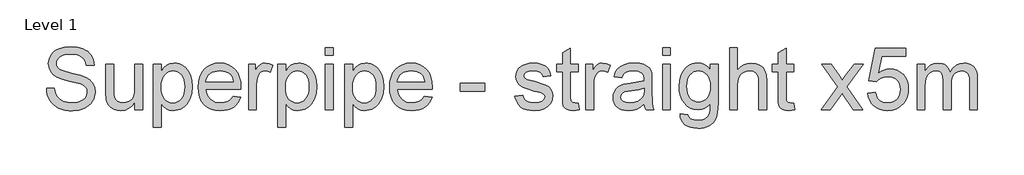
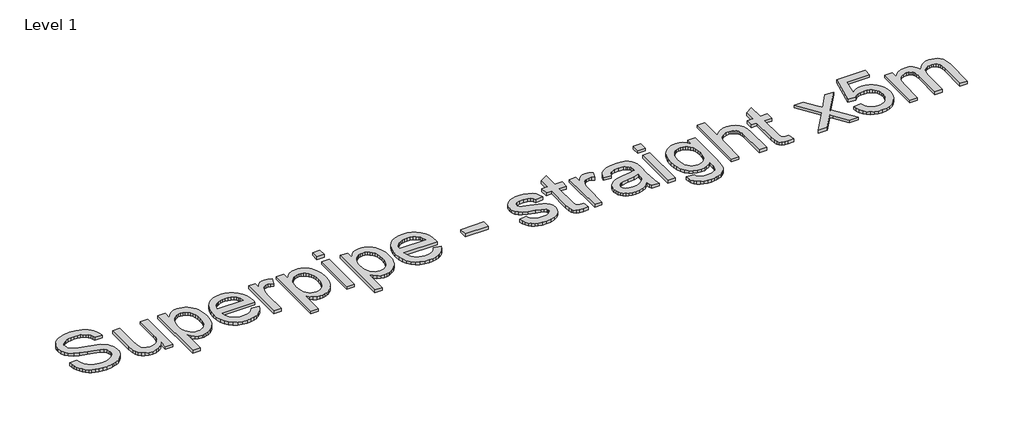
# One storey, part 8 of 58: 1 proxy.
"""IFC4 building model written with IfcOpenShell, lengths in millimetres."""

import ifcopenshell
import ifcopenshell.guid

model = None  # the IFC model being written
_history = None  # IfcOwnerHistory: only IFC2X3 demands one
_inside = {}  # id of a spatial element -> (the spatial element, [elements in it])
_under = {}  # id of a project, library or spatial element -> (it, [spatial elements below it])
_declared = {}  # id of a project -> (the project, [libraries it declares])
_typed = {}  # id of a type object -> (the type object, [elements of that type])
_made_of = {}  # id of a material, layer set ... -> (it, [elements and type objects made of it])


def new_model(schema):
    """Start an empty IFC model of exactly this schema.

    Asked for "IFC4X3", IfcOpenShell would pick the latest addendum, in which some entities
    have other attributes; the version numbers below select the first issue.
    IFC2X3 requires an IfcOwnerHistory on every rooted entity: one is made here for all.
    """
    global model, _history
    if schema == "IFC4X3":
        model = ifcopenshell.file(schema_version=(4, 3, 0, 0))
    else:
        model = ifcopenshell.file(schema=schema)
    _inside.clear()
    _under.clear()
    _declared.clear()
    _typed.clear()
    _made_of.clear()
    _history = None
    if model.schema == "IFC2X3":
        org = make("IfcOrganization", Name="unknown")
        user = make(
            "IfcPersonAndOrganization",
            ThePerson=make("IfcPerson", FamilyName="unknown"),
            TheOrganization=org,
        )
        app = make(
            "IfcApplication",
            ApplicationDeveloper=org,
            Version="unknown",
            ApplicationFullName="unknown",
            ApplicationIdentifier="unknown",
        )
        _history = make(
            "IfcOwnerHistory",
            OwningUser=user,
            OwningApplication=app,
            ChangeAction="ADDED",
            CreationDate=0,
        )
    return model


def make(cls, **values):
    """One entity of the class cls with the attributes given. An attribute that is None is left unset."""
    return model.create_entity(
        cls, **{name: value for name, value in values.items() if value is not None}
    )


def rooted(cls, **values):
    """An entity with a GlobalId (a new one), such as an element, a storey or a relation."""
    return make(cls, GlobalId=ifcopenshell.guid.new(), OwnerHistory=_history, **values)


def si_unit(unit_type, name, prefix=None):
    """IfcSIUnit, for example si_unit("LENGTHUNIT", "METRE", prefix="MILLI")."""
    return make("IfcSIUnit", UnitType=unit_type, Prefix=prefix, Name=name)


def assignment(units):
    """IfcUnitAssignment: the units of a project."""
    return None if units is None else make("IfcUnitAssignment", Units=units)


def point(xyz):
    """IfcCartesianPoint."""
    return None if xyz is None else make("IfcCartesianPoint", Coordinates=xyz)


def direction(xyz):
    """IfcDirection."""
    return None if xyz is None else make("IfcDirection", DirectionRatios=xyz)


def frame(location, z_axis=None, x_axis=None):
    """IfcAxis2Placement3D, a coordinate frame: its origin and axes. An axis left out is left unset."""
    return make(
        "IfcAxis2Placement3D",
        Location=point(location),
        Axis=direction(z_axis),
        RefDirection=direction(x_axis),
    )


def origin():
    """The frame at (0, 0, 0) with its axes left unset."""
    return frame((0.0, 0.0, 0.0))


def place(relative_to, where):
    """IfcLocalPlacement: puts the frame where relative to a parent placement (None: the world)."""
    return make(
        "IfcLocalPlacement", PlacementRelTo=relative_to, RelativePlacement=where
    )


def context(
    kind, dimensions, precision=None, world=None, true_north=None, identifier=None
):
    """IfcGeometricRepresentationContext, for example the 3D "Model" context."""
    return make(
        "IfcGeometricRepresentationContext",
        ContextIdentifier=identifier,
        ContextType=kind,
        CoordinateSpaceDimension=dimensions,
        Precision=precision,
        WorldCoordinateSystem=world,
        TrueNorth=true_north,
    )


def project(units=None, contexts=None):
    """IfcProject with its units and contexts."""
    return rooted(
        "IfcProject",
        Name="project",
        RepresentationContexts=contexts,
        UnitsInContext=assignment(units),
    )


def spatial(cls, under=None, at=None, **own):
    """A site, building, storey or space (cls), placed at a placement, below another one or the project."""
    s = rooted(cls, ObjectPlacement=at, **own)
    if under is not None:
        _under.setdefault(under.id(), (under, []))[1].append(s)
    return s


def polyline(points):
    """IfcPolyline through the points."""
    return make("IfcPolyline", Points=[point(p) for p in points])


def outline(outer, holes=None, kind="AREA"):
    """IfcArbitraryClosedProfileDef: a profile drawn as a closed curve; with holes, ...WithVoids."""
    if holes is None:
        return make("IfcArbitraryClosedProfileDef", ProfileType=kind, OuterCurve=outer)
    return make(
        "IfcArbitraryProfileDefWithVoids",
        ProfileType=kind,
        OuterCurve=outer,
        InnerCurves=holes,
    )


def extrude(swept, where, along, depth):
    """IfcExtrudedAreaSolid: the profile swept, set in the frame where, extruded along a direction by depth."""
    return make(
        "IfcExtrudedAreaSolid",
        SweptArea=swept,
        Position=where,
        ExtrudedDirection=direction(along),
        Depth=depth,
    )


def shape(context_of_items, identifier, shape_type, items):
    """IfcShapeRepresentation: the items that make up one representation, for example the "Body"."""
    return make(
        "IfcShapeRepresentation",
        ContextOfItems=context_of_items,
        RepresentationIdentifier=identifier,
        RepresentationType=shape_type,
        Items=items,
    )


def made_of(thing, what):
    """Note that an element or type object is made of a material, layer set ...; save() writes the relation."""
    if what is not None:
        _made_of.setdefault(what.id(), (what, []))[1].append(thing)
    return thing


def element(
    cls,
    number,
    at=None,
    inside=None,
    cuts=None,
    type_object=None,
    material=None,
    context=None,
    identifier="Body",
    shape_type=None,
    held_by="IfcProductDefinitionShape",
    body=None,
    shapes=None,
    **own,
):
    """One element of the class cls, such as IfcWall. Its Tag is "e" and its number.

    at: its placement. inside: the storey or other place that contains it. cuts: it is an
    opening in that element (IfcRelVoidsElement). A single representation is given by context,
    identifier, shape_type and body (its items); several are given by shapes. held_by: the class
    of the entity that holds the representations. save() writes the other relations.
    """
    e = rooted(cls, Tag="e%d" % number, ObjectPlacement=at, **own)
    if body is not None:
        shapes = [shape(context, identifier, shape_type, body)]
    if shapes is not None:
        e.Representation = make(held_by, Representations=shapes)
    if inside is not None:
        _inside.setdefault(inside.id(), (inside, []))[1].append(e)
    if cuts is not None:
        rooted(
            "IfcRelVoidsElement", RelatingBuildingElement=cuts, RelatedOpeningElement=e
        )
    if type_object is not None:
        _typed.setdefault(type_object.id(), (type_object, []))[1].append(e)
    return made_of(e, material)


def aggregate(whole, parts):
    """IfcRelAggregates: a whole, such as a stair, and the parts it consists of."""
    return rooted("IfcRelAggregates", RelatingObject=whole, RelatedObjects=parts)


def save(model, path):
    """Write the relations noted so far, then the file.

    IfcRelAggregates (storeys below a building ...), IfcRelContainedInSpatialStructure (elements
    in a storey), IfcRelDefinesByType, IfcRelAssociatesMaterial and IfcRelDeclares: one each for
    every whole, place, type object, material and project.
    """
    for whole, parts in _under.values():
        aggregate(whole, parts)
    for where, things in _inside.values():
        rooted(
            "IfcRelContainedInSpatialStructure",
            RelatedElements=things,
            RelatingStructure=where,
        )
    for kind, things in _typed.values():
        rooted("IfcRelDefinesByType", RelatedObjects=things, RelatingType=kind)
    for what, things in _made_of.values():
        rooted("IfcRelAssociatesMaterial", RelatedObjects=things, RelatingMaterial=what)
    for by, libraries in _declared.values():
        rooted("IfcRelDeclares", RelatingContext=by, RelatedDefinitions=libraries)
    model.write(path)


model = new_model("IFC4")

# Units and contexts
model_context = context("Model", 3, world=origin())
ifc_project = project(units=[si_unit("LENGTHUNIT", "METRE", prefix="MILLI")], contexts=[model_context])

# Site, building, storey
site = spatial("IfcSite", under=ifc_project)
building = spatial("IfcBuilding", under=site)
storey = spatial("IfcBuildingStorey", under=building, Name="Level 1", Elevation=27.3876384)

# Proxy
placement = place(None, origin())
element("IfcBuildingElementProxy", 1, Name="600mm Arial", ObjectType="600mm Arial", at=placement, inside=storey, context=model_context, shape_type="SweptSolid", body=[
    extrude(outline(polyline([(-18845.9522245, 3535.3323636), (-18770.6099919, 3535.3323636), (-18761.964765, 3493.5225748), (-18746.3297802, 3459.9165546), (-18721.939204, 3433.2451099), (-18687.0272026, 3412.239048), (-18644.3528912, 3398.6090201), (-18596.6753846, 3394.0656774), (-18554.700049, 3397.5053741), (-18517.9486376, 3407.824464), (-18488.1685901, 3424.1584246), (-18467.1073459, 3445.6427331), (-18454.580964, 3470.3092209), (-18450.4055033, 3496.1897193), (-18453.5325003, 3521.40803), (-18462.9134912, 3543.2050383), (-18481.9697785, 3561.8014731), (-18514.1226649, 3577.4180638), (-18623.8250759, 3606.1864358), (-18695.8379764, 3625.2243291), (-18741.9151963, 3643.3425174), (-18779.4207657, 3668.6895868), (-18806.0002399, 3699.4077334), (-18821.8375598, 3734.8347696), (-18827.1166664, 3774.3085076), (-18825.48419, 3796.7447108), (-18820.586761, 3818.435953), (-18812.4243792, 3839.3822341), (-18800.9970447, 3859.5835541), (-18786.4335162, 3878.2167772), (-18768.8625525, 3894.4587673), (-18748.2841533, 3908.3095244), (-18724.6983189, 3919.7690485), (-18671.6865234, 3935.16491), (-18613.0093452, 3940.2968639), (-18549.4393364, 3934.9257867), (-18493.8155788, 3918.8125553), (-18469.4801848, 3906.8104052), (-18448.124635, 3892.2882635), (-18429.7489293, 3875.2461301), (-18414.3530678, 3855.684005), (-18402.0566121, 3834.1721053), (-18392.9791239, 3811.2806481), (-18387.1206031, 3787.0096335), (-18384.4810498, 3761.3590614), (-18459.8232824, 3761.3590614), (-18464.8632657, 3785.4001498), (-18473.6556454, 3806.3142412), (-18486.2004215, 3824.1013357), (-18502.4975938, 3838.7614332), (-18522.8506652, 3850.2209573), (-18547.5631383, 3858.4063317), (-18576.6350129, 3863.3175564), (-18610.0662892, 3864.9546312), (-18644.5644233, 3863.3359505), (-18674.0409682, 3858.4799081), (-18698.4959238, 3850.3865042), (-18717.9292902, 3839.0557388), (-18732.7365405, 3825.4349079), (-18743.3131479, 3810.4713078), (-18749.6591123, 3794.1649383), (-18751.7744338, 3776.5157996), (-18750.2753146, 3761.3314703), (-18745.7779573, 3747.5634866), (-18738.2823616, 3735.2118486), (-18727.7885277, 3724.2765563), (-18711.2706261, 3713.9206781), (-18685.261369, 3703.4544354), (-18604.7687885, 3682.190856), (-18521.701034, 3661.9941345), (-18471.4483535, 3644.3725869), (-18428.4981305, 3617.0389547), (-18411.892857, 3600.9717086), (-18398.534142, 3583.3041757), (-18388.2656358, 3564.1283267), (-18380.9309885, 3543.5361321), (-18375.0632707, 3498.1027057), (-18376.7509294, 3474.5352653), (-18381.8139053, 3451.6576038), (-18390.2521986, 3429.4697209), (-18402.0658092, 3407.9716168), (-18417.0478034, 3387.9956245), (-18434.9912477, 3370.3740769), (-18455.8961421, 3355.1069741), (-18479.7624865, 3342.1943161), (-18505.8959038, 3331.9258099), (-18533.6020165, 3324.5911626), (-18593.7323286, 3318.7234448), (-18632.2725662, 3320.3053374), (-18667.547851, 3325.0510151), (-18699.5581831, 3332.960478), (-18728.3035625, 3344.0337261), (-18753.9587331, 3358.2891534), (-18776.6984389, 3375.7451541), (-18796.52268, 3396.4017281), (-18813.4314562, 3420.2588755), (-18827.052287, 3446.544044), (-18837.0126921, 3474.4846816), (-18843.3126712, 3504.0807881), (-18845.9522245, 3535.3323636)])), frame((0.0, 0.0, 27.3876384), z_axis=(0.0, 0.0, 1.0), x_axis=(1.0, 0.0, 0.0)), (0.0, 0.0, 1.0), 30.0),
    extrude(outline(polyline([(-17988.9343286, 3328.1412239), (-17988.9343286, 3404.2192205), (-18016.1943844, 3366.8148186), (-18047.9426006, 3340.0973887), (-18084.1789771, 3324.0669308), (-18124.903514, 3318.7234448), (-18161.599743, 3322.4758412), (-18195.7575863, 3333.7330302), (-18224.4155937, 3350.655602), (-18244.6123152, 3371.4041465), (-18258.2055549, 3396.6040632), (-18267.0531169, 3426.8807514), (-18271.4677009, 3496.9254833), (-18271.4677009, 3770.7768405), (-18196.1254683, 3770.7768405), (-18196.1254683, 3532.3893076), (-18194.9850341, 3484.711801), (-18191.5637315, 3455.575547), (-18180.582454, 3429.952566), (-18161.7652899, 3410.4732144), (-18136.3630381, 3398.1675617), (-18105.6264974, 3394.0656774), (-18073.1241232, 3398.2595322), (-18042.7186763, 3410.8410964), (-18017.6475183, 3430.6515418), (-18001.1480108, 3456.5320402), (-17991.9877491, 3491.9774704), (-17988.9343286, 3540.4827115), (-17988.9343286, 3770.7768405), (-17913.592096, 3770.7768405), (-17913.592096, 3328.1412239), (-17988.9343286, 3328.1412239)])), frame((0.0, 0.0, 27.3876384), z_axis=(0.0, 0.0, 1.0), x_axis=(1.0, 0.0, 0.0)), (0.0, 0.0, 1.0), 30.0),
    extrude(outline(polyline([(-17809.9965261, 3158.6212005), (-17809.9965261, 3770.7768405), (-17734.6542935, 3770.7768405), (-17734.6542935, 3696.9061358), (-17710.0797762, 3733.3448475), (-17682.562203, 3759.3724986), (-17650.482893, 3774.9890893), (-17612.2231655, 3780.1946196), (-17585.947194, 3778.3736037), (-17561.2715092, 3772.9105561), (-17538.196111, 3763.8054767), (-17516.7209996, 3751.0583655), (-17497.3152243, 3735.0003164), (-17480.4478348, 3715.9624232), (-17466.1188311, 3693.9446858), (-17454.3282132, 3668.9471042), (-17438.5460756, 3613.4337111), (-17433.2853631, 3552.8435465), (-17439.2266573, 3488.4090151), (-17446.6532751, 3458.7439307), (-17457.05054, 3430.7803005), (-17470.2758977, 3405.2492901), (-17486.186794, 3382.8820648), (-17504.7832288, 3363.6786246), (-17526.0652022, 3347.6389696), (-17548.9888491, 3334.9884275), (-17572.5103041, 3325.952326), (-17596.6295674, 3320.5306651), (-17621.346639, 3318.7234448), (-17655.9827288, 3323.561093), (-17686.9032105, 3338.0740378), (-17713.3723201, 3359.9814106), (-17734.6542935, 3387.0023431), (-17734.6542935, 3158.6212005), (-17809.9965261, 3158.6212005)]), holes=[polyline([(-17734.6542935, 3545.927365), (-17732.617147, 3509.6174121), (-17726.5057073, 3478.3842307), (-17716.3199746, 3452.2278209), (-17702.0599487, 3431.1481825), (-17684.8936551, 3414.9245865), (-17665.9891191, 3403.3363037), (-17645.3463407, 3396.383334), (-17622.9653198, 3394.0656774), (-17600.2624021, 3396.4661074), (-17579.2425446, 3403.6673975), (-17559.9057473, 3415.6695476), (-17542.25201, 3432.4725577), (-17527.5413288, 3454.3155512), (-17517.0336993, 3481.4376513), (-17510.7291216, 3513.838858), (-17508.6275957, 3551.5191714), (-17510.6785378, 3587.5164246), (-17516.8313642, 3618.6944237), (-17527.0860748, 3645.0531686), (-17541.4426696, 3666.5926594), (-17558.65035, 3683.3312902), (-17577.458317, 3695.2874551), (-17597.8665707, 3702.461154), (-17619.875111, 3704.8523869), (-17641.8146735, 3702.3094027), (-17662.457452, 3694.6804498), (-17681.8034464, 3681.9655283), (-17699.8526568, 3664.1646383), (-17715.0783728, 3641.5169029), (-17725.9538843, 3614.2614456), (-17732.4791912, 3582.3982663), (-17734.6542935, 3545.927365)])]), frame((0.0, 0.0, 27.3876384), z_axis=(0.0, 0.0, 1.0), x_axis=(1.0, 0.0, 0.0)), (0.0, 0.0, 1.0), 30.0),
    extrude(outline(polyline([(-17038.6215586, 3459.990131), (-16964.750854, 3450.5723519), (-16976.0770209, 3420.9854424), (-16991.3671164, 3394.911806), (-17010.6211403, 3372.3514427), (-17033.8390927, 3353.3043524), (-17060.7818503, 3338.1752053), (-17091.2102898, 3327.3686717), (-17125.1244113, 3320.8847515), (-17162.5242146, 3318.7234448), (-17209.2728191, 3322.4528485), (-17250.9262581, 3333.6410597), (-17287.4845313, 3352.2880783), (-17318.947639, 3378.3939044), (-17344.2487232, 3411.231971), (-17362.3209262, 3450.0757112), (-17373.164248, 3494.9251249), (-17376.7786886, 3545.7802122), (-17373.1274598, 3598.3597464), (-17362.1737734, 3644.7036807), (-17343.9176294, 3684.8120153), (-17318.3590278, 3718.68475), (-17286.9786936, 3745.5953179), (-17251.2573518, 3764.8171522), (-17211.1950026, 3776.3502527), (-17166.7916458, 3780.1946196), (-17123.8184302, 3776.3594498), (-17084.9562959, 3764.8539404), (-17050.205243, 3745.6780914), (-17019.5652713, 3718.8319028), (-16994.5538941, 3685.0327445), (-16976.6886247, 3644.9979863), (-16965.9694631, 3598.7276284), (-16962.3964092, 3546.2216706), (-16962.8378676, 3525.9145845), (-17301.436456, 3525.9145845), (-17297.0724558, 3495.8494284), (-17288.3950393, 3469.5182746), (-17275.4042063, 3446.9211231), (-17258.099957, 3428.0579738), (-17237.4387844, 3413.1863441), (-17214.3771818, 3402.5637515), (-17188.9151492, 3396.1901959), (-17161.0526866, 3394.0656774), (-17120.9535492, 3398.0020148), (-17087.181982, 3409.8110268), (-17059.7379852, 3430.2284775), (-17038.6215586, 3459.990131)]), holes=[polyline([(-17301.436456, 3601.2568171), (-17037.7386418, 3601.2568171), (-17047.9289731, 3641.061649), (-17056.6937617, 3656.7150279), (-17067.9049655, 3669.5357154), (-17088.4511749, 3684.9867592), (-17111.8300757, 3696.0232191), (-17138.0416678, 3702.645095), (-17167.0859514, 3704.8523869), (-17193.5780535, 3703.0911519), (-17217.8720608, 3697.8074467), (-17239.9679731, 3689.0012715), (-17259.8657905, 3676.6726261), (-17276.5630346, 3661.3917277), (-17289.0572269, 3643.7287934), (-17297.3483673, 3623.6838232), (-17301.436456, 3601.2568171)])]), frame((0.0, 0.0, 27.3876384), z_axis=(0.0, 0.0, 1.0), x_axis=(1.0, 0.0, 0.0)), (0.0, 0.0, 1.0), 30.0),
    extrude(outline(polyline([(-16887.0541766, 3328.1412239), (-16887.0541766, 3770.7768405), (-16821.1297231, 3770.7768405), (-16821.1297231, 3705.2938453), (-16796.775935, 3743.2592672), (-16774.3351333, 3765.6264925), (-16751.8207552, 3776.5525878), (-16727.2462379, 3780.1946196), (-16689.7222744, 3774.382084), (-16651.6096997, 3756.9444775), (-16676.7728282, 3689.4013431), (-16703.2603318, 3700.989626), (-16729.7478355, 3704.8523869), (-16752.2438195, 3701.1367788), (-16772.3485705, 3689.9899543), (-16788.5905606, 3672.2580422), (-16799.4982618, 3648.7871709), (-16808.6585235, 3606.7014706), (-16811.711944, 3560.7897976), (-16811.711944, 3328.1412239), (-16887.0541766, 3328.1412239)])), frame((0.0, 0.0, 27.3876384), z_axis=(0.0, 0.0, 1.0), x_axis=(1.0, 0.0, 0.0)), (0.0, 0.0, 1.0), 30.0),
    extrude(outline(polyline([(-16604.5208043, 3158.6212005), (-16604.5208043, 3770.7768405), (-16529.1785717, 3770.7768405), (-16529.1785717, 3696.9061358), (-16504.6040544, 3733.3448475), (-16477.0864812, 3759.3724986), (-16445.0071712, 3774.9890893), (-16406.7474437, 3780.1946196), (-16380.4714722, 3778.3736037), (-16355.7957874, 3772.9105561), (-16332.7203892, 3763.8054767), (-16311.2452778, 3751.0583655), (-16291.8395025, 3735.0003164), (-16274.972113, 3715.9624232), (-16260.6431093, 3693.9446858), (-16248.8524914, 3668.9471042), (-16233.0703538, 3613.4337111), (-16227.8096413, 3552.8435465), (-16233.7509355, 3488.4090151), (-16241.1775533, 3458.7439307), (-16251.5748182, 3430.7803005), (-16264.8001759, 3405.2492901), (-16280.7110722, 3382.8820648), (-16299.307507, 3363.6786246), (-16320.5894805, 3347.6389696), (-16343.5131273, 3334.9884275), (-16367.0345823, 3325.952326), (-16391.1538457, 3320.5306651), (-16415.8709172, 3318.7234448), (-16450.507007, 3323.561093), (-16481.4274887, 3338.0740378), (-16507.8965983, 3359.9814106), (-16529.1785717, 3387.0023431), (-16529.1785717, 3158.6212005), (-16604.5208043, 3158.6212005)]), holes=[polyline([(-16529.1785717, 3545.927365), (-16527.1414252, 3509.6174121), (-16521.0299855, 3478.3842307), (-16510.8442528, 3452.2278209), (-16496.5842269, 3431.1481825), (-16479.4179333, 3414.9245865), (-16460.5133973, 3403.3363037), (-16439.8706189, 3396.383334), (-16417.489598, 3394.0656774), (-16394.7866804, 3396.4661074), (-16373.7668229, 3403.6673975), (-16354.4300255, 3415.6695476), (-16336.7762882, 3432.4725577), (-16322.065607, 3454.3155512), (-16311.5579775, 3481.4376513), (-16305.2533998, 3513.838858), (-16303.1518739, 3551.5191714), (-16305.202816, 3587.5164246), (-16311.3556424, 3618.6944237), (-16321.610353, 3645.0531686), (-16335.9669478, 3666.5926594), (-16353.1746282, 3683.3312902), (-16371.9825952, 3695.2874551), (-16392.3908489, 3702.461154), (-16414.3993892, 3704.8523869), (-16436.3389517, 3702.3094027), (-16456.9817302, 3694.6804498), (-16476.3277246, 3681.9655283), (-16494.376935, 3664.1646383), (-16509.602651, 3641.5169029), (-16520.4781625, 3614.2614456), (-16527.0034694, 3582.3982663), (-16529.1785717, 3545.927365)])]), frame((0.0, 0.0, 27.3876384), z_axis=(0.0, 0.0, 1.0), x_axis=(1.0, 0.0, 0.0)), (0.0, 0.0, 1.0), 30.0),
    extrude(outline(polyline([(-16143.0496296, 3855.5368522), (-16143.0496296, 3930.8790848), (-16067.707397, 3930.8790848), (-16067.707397, 3855.5368522), (-16143.0496296, 3855.5368522)])), frame((0.0, 0.0, 27.3876384), z_axis=(0.0, 0.0, 1.0), x_axis=(1.0, 0.0, 0.0)), (0.0, 0.0, 1.0), 30.0),
    extrude(outline(polyline([(-16143.0496296, 3328.1412239), (-16143.0496296, 3770.7768405), (-16067.707397, 3770.7768405), (-16067.707397, 3328.1412239), (-16143.0496296, 3328.1412239)])), frame((0.0, 0.0, 27.3876384), z_axis=(0.0, 0.0, 1.0), x_axis=(1.0, 0.0, 0.0)), (0.0, 0.0, 1.0), 30.0),
    extrude(outline(polyline([(-15954.694048, 3158.6212005), (-15954.694048, 3770.7768405), (-15879.3518154, 3770.7768405), (-15879.3518154, 3696.9061358), (-15854.7772982, 3733.3448475), (-15827.2597249, 3759.3724986), (-15795.1804149, 3774.9890893), (-15756.9206874, 3780.1946196), (-15730.6447159, 3778.3736037), (-15705.9690311, 3772.9105561), (-15682.893633, 3763.8054767), (-15661.4185215, 3751.0583655), (-15642.0127462, 3735.0003164), (-15625.1453568, 3715.9624232), (-15610.8163531, 3693.9446858), (-15599.0257351, 3668.9471042), (-15583.2435975, 3613.4337111), (-15577.982885, 3552.8435465), (-15583.9241792, 3488.4090151), (-15591.350797, 3458.7439307), (-15601.7480619, 3430.7803005), (-15614.9734196, 3405.2492901), (-15630.8843159, 3382.8820648), (-15649.4807507, 3363.6786246), (-15670.7627242, 3347.6389696), (-15693.686371, 3334.9884275), (-15717.2078261, 3325.952326), (-15741.3270894, 3320.5306651), (-15766.0441609, 3318.7234448), (-15800.6802508, 3323.561093), (-15831.6007325, 3338.0740378), (-15858.069842, 3359.9814106), (-15879.3518154, 3387.0023431), (-15879.3518154, 3158.6212005), (-15954.694048, 3158.6212005)]), holes=[polyline([(-15879.3518154, 3545.927365), (-15877.3146689, 3509.6174121), (-15871.2032292, 3478.3842307), (-15861.0174965, 3452.2278209), (-15846.7574707, 3431.1481825), (-15829.5911771, 3414.9245865), (-15810.686641, 3403.3363037), (-15790.0438626, 3396.383334), (-15767.6628417, 3394.0656774), (-15744.9599241, 3396.4661074), (-15723.9400666, 3403.6673975), (-15704.6032692, 3415.6695476), (-15686.949532, 3432.4725577), (-15672.2388507, 3454.3155512), (-15661.7312212, 3481.4376513), (-15655.4266435, 3513.838858), (-15653.3251176, 3551.5191714), (-15655.3760597, 3587.5164246), (-15661.5288861, 3618.6944237), (-15671.7835967, 3645.0531686), (-15686.1401916, 3666.5926594), (-15703.3478719, 3683.3312902), (-15722.1558389, 3695.2874551), (-15742.5640926, 3702.461154), (-15764.5726329, 3704.8523869), (-15786.5121954, 3702.3094027), (-15807.1549739, 3694.6804498), (-15826.5009683, 3681.9655283), (-15844.5501787, 3664.1646383), (-15859.7758948, 3641.5169029), (-15870.6514063, 3614.2614456), (-15877.1767131, 3582.3982663), (-15879.3518154, 3545.927365)])]), frame((0.0, 0.0, 27.3876384), z_axis=(0.0, 0.0, 1.0), x_axis=(1.0, 0.0, 0.0)), (0.0, 0.0, 1.0), 30.0),
    extrude(outline(polyline([(-15183.3190806, 3459.990131), (-15109.4483759, 3450.5723519), (-15120.7745429, 3420.9854424), (-15136.0646383, 3394.911806), (-15155.3186622, 3372.3514427), (-15178.5366146, 3353.3043524), (-15205.4793722, 3338.1752053), (-15235.9078118, 3327.3686717), (-15269.8219332, 3320.8847515), (-15307.2217365, 3318.7234448), (-15353.9703411, 3322.4528485), (-15395.62378, 3333.6410597), (-15432.1820532, 3352.2880783), (-15463.6451609, 3378.3939044), (-15488.9462451, 3411.231971), (-15507.0184481, 3450.0757112), (-15517.8617699, 3494.9251249), (-15521.4762105, 3545.7802122), (-15517.8249817, 3598.3597464), (-15506.8712953, 3644.7036807), (-15488.6151513, 3684.8120153), (-15463.0565497, 3718.68475), (-15431.6762155, 3745.5953179), (-15395.9548738, 3764.8171522), (-15355.8925245, 3776.3502527), (-15311.4891677, 3780.1946196), (-15268.5159521, 3776.3594498), (-15229.6538179, 3764.8539404), (-15194.9027649, 3745.6780914), (-15164.2627932, 3718.8319028), (-15139.2514161, 3685.0327445), (-15121.3861467, 3644.9979863), (-15110.666985, 3598.7276284), (-15107.0939312, 3546.2216706), (-15107.5353896, 3525.9145845), (-15446.1339779, 3525.9145845), (-15441.7699777, 3495.8494284), (-15433.0925612, 3469.5182746), (-15420.1017282, 3446.9211231), (-15402.7974789, 3428.0579738), (-15382.1363063, 3413.1863441), (-15359.0747038, 3402.5637515), (-15333.6126712, 3396.1901959), (-15305.7502086, 3394.0656774), (-15265.6510711, 3398.0020148), (-15231.8795039, 3409.8110268), (-15204.4355071, 3430.2284775), (-15183.3190806, 3459.990131)]), holes=[polyline([(-15446.1339779, 3601.2568171), (-15182.4361638, 3601.2568171), (-15192.626495, 3641.061649), (-15201.3912836, 3656.7150279), (-15212.6024874, 3669.5357154), (-15233.1486968, 3684.9867592), (-15256.5275976, 3696.0232191), (-15282.7391898, 3702.645095), (-15311.7834733, 3704.8523869), (-15338.2755755, 3703.0911519), (-15362.5695827, 3697.8074467), (-15384.665495, 3689.0012715), (-15404.5633125, 3676.6726261), (-15421.2605565, 3661.3917277), (-15433.7547488, 3643.7287934), (-15442.0458892, 3623.6838232), (-15446.1339779, 3601.2568171)])]), frame((0.0, 0.0, 27.3876384), z_axis=(0.0, 0.0, 1.0), x_axis=(1.0, 0.0, 0.0)), (0.0, 0.0, 1.0), 30.0),
    extrude(outline(polyline([(-14833.9783379, 3507.0790263), (-14833.9783379, 3582.4212589), (-14598.533861, 3582.4212589), (-14598.533861, 3507.0790263), (-14833.9783379, 3507.0790263)])), frame((0.0, 0.0, 27.3876384), z_axis=(0.0, 0.0, 1.0), x_axis=(1.0, 0.0, 0.0)), (0.0, 0.0, 1.0), 30.0),
    extrude(outline(polyline([(-14306.5827097, 3459.990131), (-14231.240477, 3469.40791), (-14226.6879374, 3452.2278209), (-14219.3578886, 3437.1814473), (-14209.2503308, 3424.2687892), (-14196.3652639, 3413.4898468), (-14180.6658998, 3404.9917727), (-14162.1154502, 3398.9217198), (-14116.4612945, 3394.0656774), (-14071.3589619, 3398.5170496), (-14053.8293849, 3404.0812647), (-14039.647534, 3411.871166), (-14020.8855522, 3431.2217589), (-14016.1950568, 3442.0558837), (-14014.6315583, 3453.6625606), (-14016.2042538, 3463.8344978), (-14020.9223404, 3472.8660008), (-14039.7946868, 3487.5077042), (-14068.0112358, 3497.0726361), (-14117.3442113, 3508.9920127), (-14186.1013562, 3528.8760346), (-14230.7990186, 3545.8537886), (-14259.5122084, 3564.3766471), (-14280.3159352, 3588.8959821), (-14292.9526817, 3617.8482951), (-14297.1649306, 3649.6700877), (-14293.7804162, 3678.861524), (-14283.6268732, 3705.8088801), (-14267.6240064, 3729.4452983), (-14246.6915208, 3748.7039208), (-14225.887794, 3760.8256325), (-14198.7932851, 3770.9975697), (-14167.4681332, 3777.8953571), (-14133.9724775, 3780.1946196), (-14084.9338076, 3776.4974055), (-14042.2962843, 3765.4057633), (-14008.0096824, 3748.004945), (-13984.0237763, 3725.3802023), (-13968.1312741, 3695.8576722), (-13958.1248838, 3657.7634916), (-14033.4671164, 3648.3457125), (-14042.976866, 3672.0557071), (-14061.7940301, 3689.9163779), (-14090.1025496, 3701.1183847), (-14128.0863656, 3704.8523869), (-14171.3492882, 3701.2839316), (-14200.1912367, 3690.5785655), (-14216.4148326, 3675.1275217), (-14221.822698, 3657.3220332), (-14219.5786178, 3645.7337503), (-14212.8463773, 3635.3962663), (-14201.3316708, 3626.1624282), (-14184.7401929, 3618.7680001), (-14119.8458089, 3602.7283451), (-14009.2604812, 3567.2645207), (-13980.0506507, 3550.3051608), (-13957.9041546, 3527.0918069), (-13943.9430329, 3497.5508827), (-13939.2893257, 3461.6088117), (-13944.7523733, 3424.4527302), (-13961.1415162, 3389.5039407), (-13987.8313549, 3359.503164), (-14024.1964902, 3337.191121), (-14068.1216004, 3323.3403638), (-14117.4913641, 3318.7234448), (-14158.0411571, 3320.9491309), (-14193.4589961, 3327.6261891), (-14223.7448814, 3338.7546194), (-14248.8988128, 3354.3344219), (-14269.4450222, 3374.2920202), (-14285.9077415, 3398.5538378), (-14298.2869707, 3427.1198747), (-14306.5827097, 3459.990131)])), frame((0.0, 0.0, 27.3876384), z_axis=(0.0, 0.0, 1.0), x_axis=(1.0, 0.0, 0.0)), (0.0, 0.0, 1.0), 30.0),
    extrude(outline(polyline([(-13694.4270697, 3390.9754687), (-13685.0092906, 3325.9339319), (-13741.3688123, 3318.7234448), (-13777.5316124, 3321.8504418), (-13804.4973626, 3331.2314326), (-13823.55365, 3345.6891951), (-13835.9880614, 3364.0465066), (-13842.8306665, 3395.5739936), (-13845.1115349, 3449.5422823), (-13845.1115349, 3695.4346079), (-13901.6182094, 3695.4346079), (-13901.6182094, 3770.7768405), (-13845.1115349, 3770.7768405), (-13845.1115349, 3878.3455359), (-13769.7693023, 3922.6385281), (-13769.7693023, 3770.7768405), (-13694.4270697, 3770.7768405), (-13694.4270697, 3695.4346079), (-13769.7693023, 3695.4346079), (-13769.7693023, 3451.7495743), (-13765.7961767, 3412.9012356), (-13752.9203069, 3399.142449), (-13742.049394, 3395.3348703), (-13727.2421437, 3394.0656774), (-13694.4270697, 3390.9754687)])), frame((0.0, 0.0, 27.3876384), z_axis=(0.0, 0.0, 1.0), x_axis=(1.0, 0.0, 0.0)), (0.0, 0.0, 1.0), 30.0),
    extrude(outline(polyline([(-13619.0848371, 3328.1412239), (-13619.0848371, 3770.7768405), (-13553.1603835, 3770.7768405), (-13553.1603835, 3705.2938453), (-13528.8065955, 3743.2592672), (-13506.3657937, 3765.6264925), (-13483.8514156, 3776.5525878), (-13459.2768984, 3780.1946196), (-13421.7529349, 3774.382084), (-13383.6403602, 3756.9444775), (-13408.8034886, 3689.4013431), (-13435.2909923, 3700.989626), (-13461.7784959, 3704.8523869), (-13484.2744799, 3701.1367788), (-13504.379231, 3689.9899543), (-13520.6212211, 3672.2580422), (-13531.5289222, 3648.7871709), (-13540.6891839, 3606.7014706), (-13543.7426045, 3560.7897976), (-13543.7426045, 3328.1412239), (-13619.0848371, 3328.1412239)])), frame((0.0, 0.0, 27.3876384), z_axis=(0.0, 0.0, 1.0), x_axis=(1.0, 0.0, 0.0)), (0.0, 0.0, 1.0), 30.0),
    extrude(outline(polyline([(-13054.0180925, 3384.6478983), (-13090.0153457, 3353.7825989), (-13127.0794567, 3333.5858774), (-13166.0565541, 3322.439053), (-13207.7927665, 3318.7234448), (-13241.3390059, 3320.9583279), (-13270.7557699, 3327.6629773), (-13296.0430586, 3338.8373929), (-13317.2008718, 3354.4815747), (-13333.9073129, 3373.6022414), (-13345.8404852, 3395.2061116), (-13353.0003885, 3419.2931852), (-13355.3870229, 3445.8634623), (-13351.7817794, 3477.0966437), (-13340.9660487, 3505.4603456), (-13324.2826002, 3529.7405572), (-13303.0742032, 3548.7232682), (-13278.150198, 3563.070666), (-13250.3199251, 3573.4449383), (-13185.1312356, 3584.7757037), (-13108.0967458, 3596.6950804), (-13054.4595509, 3610.6745962), (-13054.0180925, 3627.4500152), (-13059.2052286, 3661.0744295), (-13065.6891488, 3673.5272351), (-13074.766637, 3683.0737728), (-13090.4568041, 3692.6019165), (-13109.5682737, 3699.4077334), (-13158.0551207, 3704.8523869), (-13202.9367241, 3701.2287493), (-13234.2802701, 3690.3578363), (-13255.654214, 3670.2530853), (-13270.6270112, 3638.9279334), (-13345.9692439, 3648.3457125), (-13332.8910389, 3689.5484959), (-13313.3748991, 3721.9221115), (-13285.5998084, 3746.6805698), (-13247.7447511, 3765.0378814), (-13201.446802, 3776.405435), (-13148.343036, 3780.1946196), (-13097.4097738, 3776.8468934), (-13057.0347248, 3766.8037149), (-13026.5924897, 3751.702159), (-13005.4576691, 3733.1793006), (-12991.4413651, 3710.2786464), (-12982.3546798, 3682.0437032), (-12978.6758599, 3616.1192497), (-12978.6758599, 3522.3829173), (-12974.8498871, 3391.4905035), (-12969.1845044, 3359.135282), (-12959.8403017, 3328.1412239), (-13035.1825343, 3328.1412239), (-13047.2490638, 3354.3344219), (-13054.0180925, 3384.6478983)]), holes=[polyline([(-13054.0180925, 3535.3323636), (-13104.638655, 3522.7875875), (-13175.5663037, 3512.2293743), (-13240.3871112, 3500.015692), (-13257.2545007, 3491.6647707), (-13269.7440944, 3480.1500643), (-13277.4696163, 3466.3544895), (-13280.0447903, 3451.1609631), (-13274.4345899, 3428.7569496), (-13257.6039886, 3410.399638), (-13229.9208685, 3398.1491676), (-13191.7531115, 3394.0656774), (-13151.286092, 3398.5722319), (-13115.5279621, 3412.0918952), (-13086.5388609, 3432.0127052), (-13066.3789275, 3455.7226998), (-13057.439395, 3480.1500643), (-13054.4595509, 3513.9952078), (-13054.0180925, 3535.3323636)])]), frame((0.0, 0.0, 27.3876384), z_axis=(0.0, 0.0, 1.0), x_axis=(1.0, 0.0, 0.0)), (0.0, 0.0, 1.0), 30.0),
    extrude(outline(polyline([(-12875.08029, 3328.1412239), (-12875.08029, 3770.7768405), (-12799.7380574, 3770.7768405), (-12799.7380574, 3328.1412239), (-12875.08029, 3328.1412239)])), frame((0.0, 0.0, 27.3876384), z_axis=(0.0, 0.0, 1.0), x_axis=(1.0, 0.0, 0.0)), (0.0, 0.0, 1.0), 30.0),
    extrude(outline(polyline([(-12875.08029, 3855.5368522), (-12875.08029, 3930.8790848), (-12799.7380574, 3930.8790848), (-12799.7380574, 3855.5368522), (-12875.08029, 3855.5368522)])), frame((0.0, 0.0, 27.3876384), z_axis=(0.0, 0.0, 1.0), x_axis=(1.0, 0.0, 0.0)), (0.0, 0.0, 1.0), 30.0),
    extrude(outline(polyline([(-12705.5602666, 3290.4701076), (-12630.218034, 3281.0523285), (-12621.9039009, 3257.5078808), (-12605.7906696, 3241.321073), (-12574.1160298, 3228.7395088), (-12532.6557289, 3224.545654), (-12488.4363131, 3229.2913318), (-12470.5756422, 3235.223429), (-12455.5476627, 3243.528365), (-12432.738979, 3266.3370487), (-12418.7594632, 3296.7976779), (-12414.6759731, 3329.2080817), (-12413.6091153, 3384.6478983), (-12438.6802732, 3359.9262283), (-12466.657699, 3342.2678925), (-12497.5413925, 3331.672891), (-12531.3313537, 3328.1412239), (-12572.6399033, 3332.2523052), (-12609.009637, 3344.5855491), (-12640.440555, 3365.1409555), (-12666.9326572, 3393.9185246), (-12687.9525147, 3428.4442499), (-12702.9666986, 3466.2441249), (-12711.9752089, 3507.3181496), (-12714.9780457, 3551.6663242), (-12709.5885745, 3612.4956121), (-12693.4201608, 3668.4320694), (-12681.4364048, 3693.6549787), (-12667.0430218, 3715.8336645), (-12650.2400116, 3734.9681268), (-12631.0273744, 3751.0583655), (-12609.7132113, 3763.8054767), (-12586.6056235, 3772.9105561), (-12561.704611, 3778.3736037), (-12535.0101737, 3780.1946196), (-12499.7762756, 3776.0743412), (-12467.7981332, 3763.7135062), (-12439.0757464, 3743.1121144), (-12413.6091153, 3714.270166), (-12413.6091153, 3770.7768405), (-12338.2668827, 3770.7768405), (-12338.2668827, 3388.6210239), (-12343.4172306, 3300.3845273), (-12349.8551655, 3267.5648549), (-12358.8682744, 3242.2775662), (-12370.6726879, 3221.8831081), (-12385.4845367, 3203.7419272), (-12403.3038209, 3187.8540235), (-12424.1305403, 3174.2193971), (-12447.753163, 3163.2749077), (-12473.9601566, 3155.4574153), (-12502.7515212, 3150.7669199), (-12534.1272569, 3149.2034214), (-12571.0396166, 3151.4061149), (-12604.2271711, 3158.0141952), (-12633.6899204, 3169.0276624), (-12659.4278645, 3184.4465166), (-12680.2177957, 3204.2891517), (-12694.8365065, 3228.5739619), (-12703.2839968, 3257.3009472), (-12705.5602666, 3290.4701076)]), holes=[polyline([(-12639.6358131, 3556.8166721), (-12637.6262577, 3519.5640215), (-12631.5975915, 3487.7100393), (-12621.5498145, 3461.2547253), (-12607.4829267, 3440.1980796), (-12590.3810125, 3424.135432), (-12571.2281561, 3412.6621123), (-12550.0243576, 3405.7781204), (-12526.769617, 3403.4834565), (-12503.7448026, 3405.7643249), (-12482.6421717, 3412.60693), (-12463.4617241, 3424.0112718), (-12446.20346, 3439.9773504), (-12431.9434342, 3460.8270625), (-12421.7577015, 3486.8823048), (-12415.6462618, 3518.1430773), (-12413.6091153, 3554.6093801), (-12415.7060426, 3589.5535711), (-12421.9968248, 3619.9268284), (-12432.4814616, 3645.7291518), (-12447.1599532, 3666.9605414), (-12464.7906979, 3683.5382238), (-12484.1320937, 3695.3794256), (-12505.1841409, 3702.4841466), (-12527.9468394, 3704.8523869), (-12550.3278603, 3702.5209348), (-12570.9706387, 3695.5265784), (-12589.8751747, 3683.8693176), (-12607.0414683, 3667.5491526), (-12621.3014942, 3646.6396597), (-12631.4872269, 3621.2144153), (-12637.5986666, 3591.2734195), (-12639.6358131, 3556.8166721)])]), frame((0.0, 0.0, 27.3876384), z_axis=(0.0, 0.0, 1.0), x_axis=(1.0, 0.0, 0.0)), (0.0, 0.0, 1.0), 30.0),
    extrude(outline(polyline([(-12225.2535337, 3328.1412239), (-12225.2535337, 3930.8790848), (-12149.9113011, 3930.8790848), (-12149.9113011, 3709.2669709), (-12122.237378, 3740.2978172), (-12091.1605465, 3762.4627074), (-12056.6808065, 3775.7616415), (-12018.7981581, 3780.1946196), (-11973.2911552, 3775.3569713), (-11934.1852992, 3760.8440266), (-11903.3935762, 3737.7962196), (-11882.8289726, 3707.3539845), (-11871.2406898, 3665.5258017), (-11867.3779288, 3608.3201514), (-11867.3779288, 3328.1412239), (-11942.7201614, 3328.1412239), (-11942.7201614, 3600.5210531), (-11944.2192806, 3625.9600931), (-11948.716638, 3647.6835249), (-11956.2122336, 3665.6913486), (-11966.7060675, 3679.9835641), (-11979.9498194, 3690.8636741), (-11995.6951688, 3698.6351812), (-12013.9421157, 3703.2980855), (-12034.6906602, 3704.8523869), (-12066.5308469, 3700.6585322), (-12096.421259, 3688.076968), (-12121.1797173, 3668.3217048), (-12137.6240425, 3642.6067534), (-12146.8394865, 3608.430516), (-12149.9113011, 3563.2913952), (-12149.9113011, 3328.1412239), (-12225.2535337, 3328.1412239)])), frame((0.0, 0.0, 27.3876384), z_axis=(0.0, 0.0, 1.0), x_axis=(1.0, 0.0, 0.0)), (0.0, 0.0, 1.0), 30.0),
    extrude(outline(polyline([(-11603.6801147, 3390.9754687), (-11594.2623356, 3325.9339319), (-11650.6218573, 3318.7234448), (-11686.7846574, 3321.8504418), (-11713.7504077, 3331.2314326), (-11732.806695, 3345.6891951), (-11745.2411064, 3364.0465066), (-11752.0837115, 3395.5739936), (-11754.3645799, 3449.5422823), (-11754.3645799, 3695.4346079), (-11810.8712544, 3695.4346079), (-11810.8712544, 3770.7768405), (-11754.3645799, 3770.7768405), (-11754.3645799, 3878.3455359), (-11679.0223473, 3922.6385281), (-11679.0223473, 3770.7768405), (-11603.6801147, 3770.7768405), (-11603.6801147, 3695.4346079), (-11679.0223473, 3695.4346079), (-11679.0223473, 3451.7495743), (-11675.0492218, 3412.9012356), (-11662.1733519, 3399.142449), (-11651.302439, 3395.3348703), (-11636.4951887, 3394.0656774), (-11603.6801147, 3390.9754687)])), frame((0.0, 0.0, 27.3876384), z_axis=(0.0, 0.0, 1.0), x_axis=(1.0, 0.0, 0.0)), (0.0, 0.0, 1.0), 30.0),
    extrude(outline(polyline([(-11339.9823006, 3328.1412239), (-11178.9971395, 3550.6362546), (-11330.5645215, 3770.7768405), (-11239.9183979, 3770.7768405), (-11166.7834572, 3664.8268259), (-11132.6440081, 3614.7948745), (-11103.0662957, 3655.7033524), (-11019.7778119, 3770.7768405), (-10929.1316883, 3770.7768405), (-11088.3510158, 3550.6362546), (-10935.0178003, 3328.1412239), (-11025.6639239, 3328.1412239), (-11117.9287283, 3461.9031173), (-11134.8513, 3486.3304818), (-11249.3361769, 3328.1412239), (-11339.9823006, 3328.1412239)])), frame((0.0, 0.0, 27.3876384), z_axis=(0.0, 0.0, 1.0), x_axis=(1.0, 0.0, 0.0)), (0.0, 0.0, 1.0), 30.0),
    extrude(outline(polyline([(-10887.9289049, 3488.2434682), (-10812.5866723, 3497.6612473), (-10806.9580777, 3473.4408164), (-10798.7543092, 3452.430156), (-10787.9753668, 3434.6292659), (-10774.6212504, 3420.0381463), (-10758.7195511, 3408.6751912), (-10740.2978602, 3400.5587946), (-10719.3561776, 3395.6889567), (-10695.8945034, 3394.0656774), (-10667.1997078, 3396.3235532), (-10641.8894265, 3403.0971804), (-10619.9636596, 3414.3865591), (-10601.422407, 3430.1916893), (-10586.6795361, 3449.7308218), (-10576.148914, 3472.2222073), (-10569.8305407, 3497.6658458), (-10567.7244163, 3526.0617373), (-10569.6971835, 3552.8987288), (-10575.6154851, 3576.7558762), (-10585.4793211, 3597.6331794), (-10599.2886915, 3615.5306385), (-10617.0895815, 3629.8872334), (-10638.9279764, 3640.141944), (-10664.8038763, 3646.2947704), (-10694.717281, 3648.3457125), (-10731.2663572, 3645.0715627), (-10760.8624637, 3635.2491135), (-10784.4988819, 3620.2027399), (-10803.1688932, 3601.2568171), (-10878.5111258, 3610.6745962), (-10812.5866723, 3921.4613057), (-10520.6355209, 3921.4613057), (-10520.6355209, 3846.1190731), (-10751.6654139, 3846.1190731), (-10783.8918766, 3680.1307169), (-10757.3032054, 3699.1870042), (-10730.0707407, 3712.798638), (-10702.1944826, 3720.9656183), (-10673.6744309, 3723.6879451), (-10636.9828004, 3720.3126278), (-10603.2802111, 3710.1866759), (-10572.566663, 3693.3100893), (-10544.8421562, 3669.6828682), (-10521.8909182, 3640.7489493), (-10505.4971768, 3607.9522694), (-10495.6609319, 3571.2928286), (-10492.3821837, 3530.7706268), (-10495.3344367, 3491.7383471), (-10504.1911957, 3455.4283942), (-10518.9524608, 3421.8407681), (-10539.6182318, 3390.9754687), (-10570.9249896, 3359.3652082), (-10607.4556718, 3336.7864508), (-10649.2102782, 3323.2391963), (-10696.188809, 3318.7234448), (-10735.0693374, 3321.625114), (-10770.1882723, 3330.3301218), (-10801.5456139, 3344.8384679), (-10829.141362, 3365.1501526), (-10852.1017971, 3390.2535002), (-10869.5531992, 3419.1368354), (-10881.4955685, 3451.800158), (-10887.9289049, 3488.2434682)])), frame((0.0, 0.0, 27.3876384), z_axis=(0.0, 0.0, 1.0), x_axis=(1.0, 0.0, 0.0)), (0.0, 0.0, 1.0), 30.0),
    extrude(outline(polyline([(-10407.622172, 3328.1412239), (-10407.622172, 3770.7768405), (-10332.2799394, 3770.7768405), (-10332.2799394, 3697.9362054), (-10309.6184085, 3731.3950729), (-10280.4821544, 3757.6066651), (-10245.8644587, 3774.5476309), (-10206.7586026, 3780.1946196), (-10164.8568434, 3774.4372663), (-10147.0237636, 3767.2405748), (-10131.2692172, 3757.1652067), (-10106.1796651, 3729.5188747), (-10089.7721281, 3692.6387047), (-10062.3097372, 3730.9444175), (-10030.9845853, 3758.3056408), (-9995.7966725, 3774.7223749), (-9956.7459987, 3780.1946196), (-9926.5842736, 3777.9183497), (-9900.1105655, 3771.0895402), (-9877.3248745, 3759.7081909), (-9858.2272004, 3743.774302), (-9843.130243, 3723.1039324), (-9832.346702, 3697.5131411), (-9825.8765774, 3667.0019282), (-9823.7198692, 3631.5702935), (-9823.7198692, 3328.1412239), (-9899.0621018, 3328.1412239), (-9899.0621018, 3599.1966779), (-9900.8095413, 3636.7758237), (-9906.0518598, 3662.1044991), (-9915.874309, 3679.4501352), (-9931.362141, 3693.0801631), (-9951.2829511, 3701.909331), (-9974.4043345, 3704.8523869), (-9995.7552857, 3702.9669917), (-10015.2208418, 3697.310806), (-10032.8010027, 3687.8838299), (-10048.4957683, 3674.6860633), (-10061.4038278, 3657.3312302), (-10070.6238703, 3635.4330545), (-10076.1558958, 3608.9915361), (-10077.9999043, 3578.006675), (-10077.9999043, 3328.1412239), (-10153.3421369, 3328.1412239), (-10153.3421369, 3607.5843874), (-10157.7015386, 3650.1851225), (-10163.1507906, 3666.9053591), (-10170.7797435, 3680.5721753), (-10180.8918998, 3691.1947679), (-10193.7907623, 3698.782334), (-10209.4763308, 3703.3348737), (-10227.9486055, 3704.8523869), (-10256.9744949, 3700.805685), (-10283.719516, 3688.6655792), (-10305.7924357, 3668.726375), (-10320.8020211, 3641.2823782), (-10329.4104598, 3603.2065917), (-10332.2799394, 3551.3720186), (-10332.2799394, 3328.1412239), (-10407.622172, 3328.1412239)])), frame((0.0, 0.0, 27.3876384), z_axis=(0.0, 0.0, 1.0), x_axis=(1.0, 0.0, 0.0)), (0.0, 0.0, 1.0), 30.0),
])

save(model, "model.ifc")
